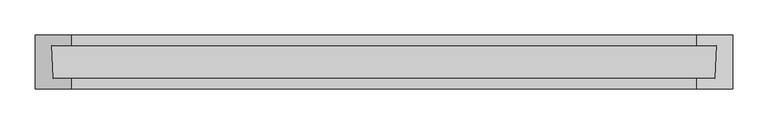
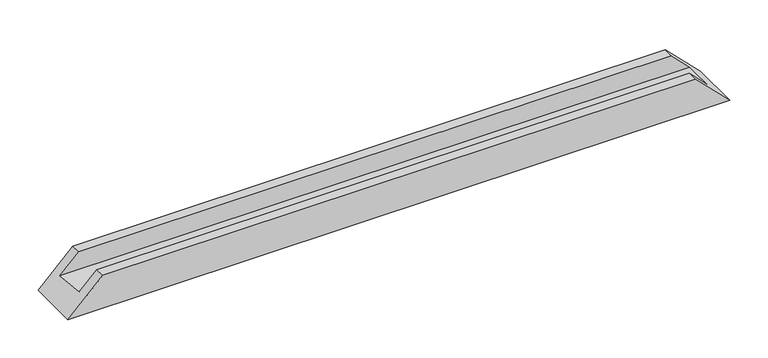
"""IFC4 building model written with IfcOpenShell, lengths in millimetres: proxy geometry, Weiku - Montante - Caixilho duplo 02.2.01.002 de canto : Weiku - Montante - Caixilho duplo 02.2.01.002 de canto."""

from ifc_helpers import new_model, si_unit, origin, place, context, project, spatial, faceted_brep, source, transform, mapped, element, save


def generic_models_10da931c(model_context):
    return source(origin(), model_context, "Body", "Brep", [
        faceted_brep([(-471.5, 15.0, 26.0), (-445.5, 15.0, 52.0), (445.5, 15.0, 52.0), (471.5, 15.0, 26.0), (-473.7229744, 62.0, 23.7770256), (473.7229744, 62.0, 23.7770256), (-445.5, 62.0, 52.0), (445.5, 62.0, 52.0), (-445.5, 77.0, 52.0), (445.5, 77.0, 52.0), (497.5, 77.0, 0.0), (-497.5, 77.0, 0.0), (497.5, 0.0, 0.0), (-497.5, 0.0, 0.0), (445.5, 0.0, 52.0), (-445.5, 0.0, 52.0)], [[[0, 1, 2, 3]], [[4, 0, 3, 5]], [[6, 4, 5, 7]], [[8, 6, 7, 9]], [[10, 11, 8, 9]], [[11, 10, 12, 13]], [[13, 12, 14, 15]], [[1, 15, 14, 2]], [[1, 0, 4, 6, 8, 11, 13, 15]], [[3, 2, 14, 12, 10, 9, 7, 5]]]),
    ])


if __name__ == "__main__":
    model = new_model("IFC4")
    model_context = context("Model", 3, world=origin())
    ifc_project = project(units=[si_unit("LENGTHUNIT", "METRE", prefix="MILLI")], contexts=[model_context])
    site = spatial("IfcSite", under=ifc_project)
    building = spatial("IfcBuilding", under=site)
    placement = place(None, origin())
    generic_models_shape = generic_models_10da931c(model_context)
    element("IfcBuildingElementProxy", 1, Name="Weiku - Montante - Caixilho duplo 02.2.01.002 de canto : Weiku - Montante - Caixilho duplo 02.2.01.002 de canto", ObjectType="Weiku - Montante - Caixilho duplo 02.2.01.002 de canto : Weiku - Montante - Caixilho duplo 02.2.01.002 de canto", at=placement, inside=building, context=model_context, shape_type="MappedRepresentation", body=[
        mapped(generic_models_shape, transform((0.0, 0.0, 0.0), x_axis=(1.0, 0.0, 0.0), y_axis=(0.0, 1.0, 0.0), z_axis=(0.0, 0.0, 1.0))),
    ])
    save(model, "model.ifc")
